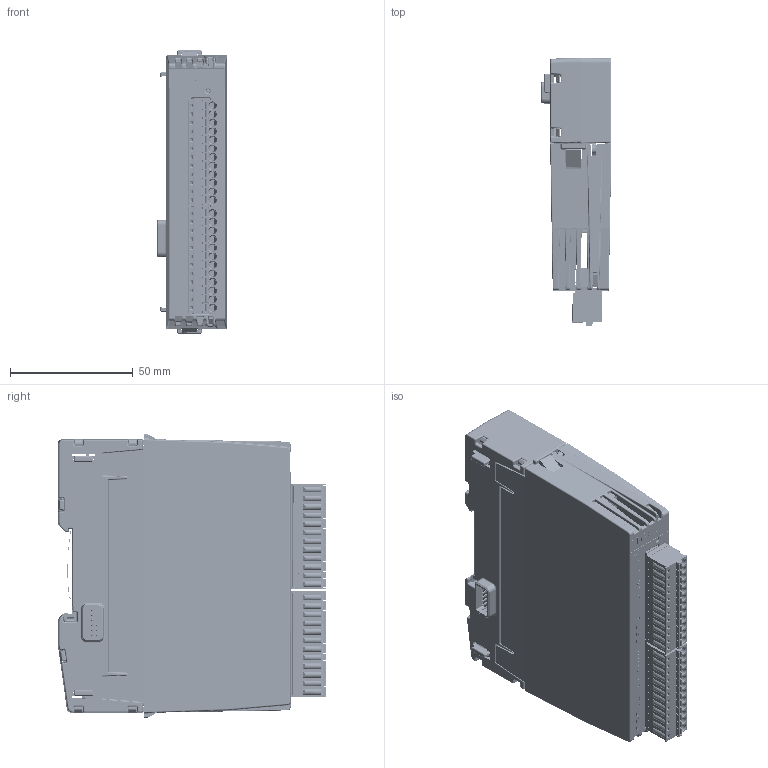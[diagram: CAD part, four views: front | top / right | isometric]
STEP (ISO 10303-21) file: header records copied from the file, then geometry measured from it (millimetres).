
FILE_DESCRIPTION(/* description */ (''),/* implementation_level */ '2;1');
FILE_NAME(/* name */ 'C:\Users\Public\Documents\Autodesk\Inventor 2023\DM20C_Simplified+BackBB21C.stp',/* time_stamp */ '2024-10-15T22:03:13+02:00',/* author */ ('shoma'),/* organization */ (''),/* preprocessor_version */ 'ST-DEVELOPER v19',/* originating_system */ 'Autodesk Inventor 2023',/* authorisation */ '');
FILE_SCHEMA (('AUTOMOTIVE_DESIGN { 1 0 10303 214 3 1 1 }'));
Products named in the file (1): DM20C_Simplified+BackBB21C
Bounding box: 28.9 x 109.39 x 115.5 mm (x, y, z)
Volume: 155201.2 mm3; surface area: 94770.4 mm2
Topology: 8 solids, 58 shells, 9465 faces, 25088 edges, 15798 vertices
Faces by surface type: plane 5727, cylinder 2404, bspline 898, cone 233, sphere 162, torus 41
Full cylindrical faces by diameter (mm): 0.296 x2, 0.3 x152, 0.457 x2, 0.7 x36, 0.8 x6, 0.85 x24, 0.9 x8, 1.17 x24, 1.2 x24, 1.25 x24, 1.3 x24, 1.4 x4, 1.6 x26, 2.35 x2, 2.5 x1, 3 x1, 3.1 x24, 3.25 x2
Entity records: 327062 total; most frequent: CARTESIAN_POINT 84205, ORIENTED_EDGE 49870, DIRECTION 46125, EDGE_CURVE 24935, LINE 17649, VECTOR 17649, VERTEX_POINT 15798, AXIS2_PLACEMENT_3D 14238
